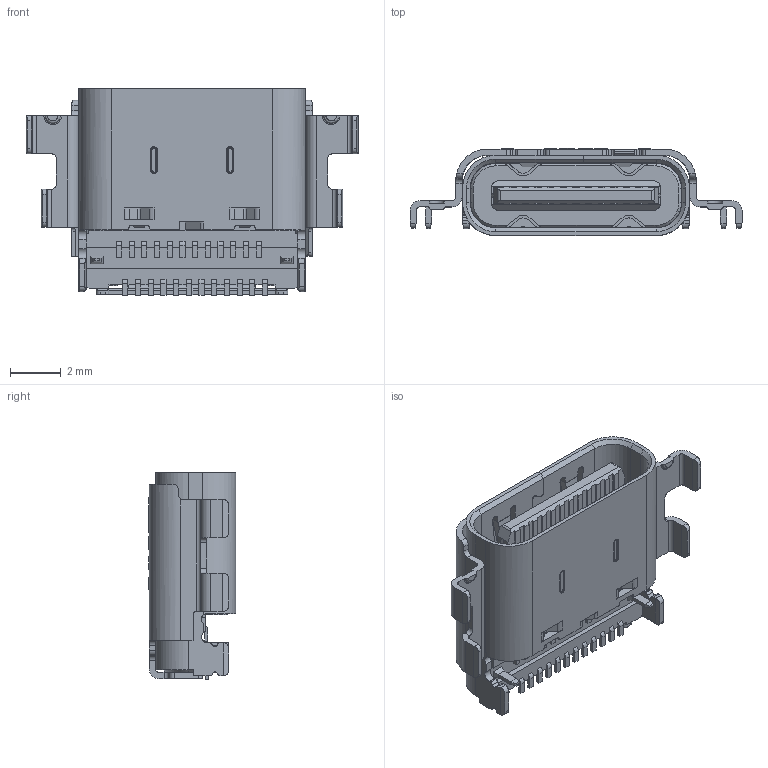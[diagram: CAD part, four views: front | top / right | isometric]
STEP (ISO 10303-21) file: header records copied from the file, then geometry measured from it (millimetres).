
FILE_DESCRIPTION((' '),'2;1');
FILE_NAME( 'U5150-24PN1.08C8.21L.stp', '2026-05-11T17:20:40', (' '), ('--- ---'), ' V2026.1 Dec 31 2025', ' 2026 (c)', ' ');
FILE_SCHEMA(('AP242_MANAGED_MODEL_BASED_3D_ENGINEERING_MIM_LF { 1 0 10303 442 1 1 4 }'));
Length unit declared in the file: millimetre
Products named in the file (4): HSG_1_2; OUT-SHELL_1; U5150-24PN1.08C8.21L(2); U5150-24PN1.08C8.21L
Assembly tree (3 placements, depth 3):
  U5150-24PN1.08C8.21L
    U5150-24PN1.08C8.21L(2)
      HSG_1_2
      OUT-SHELL_1
Bounding box: 13.09 x 3.44 x 8.14 mm (x, y, z)
Volume: 136.7 mm3; surface area: 710.4 mm2
Topology: 2 solids, 2 shells, 1119 faces, 3238 edges, 2130 vertices
Faces by surface type: plane 753, cylinder 303, bspline 48, cone 15
Entity records: 39539 total; most frequent: CARTESIAN_POINT 11108, ORIENTED_EDGE 6476, DIRECTION 5044, EDGE_CURVE 3238, VECTOR 2408, LINE 2408, VERTEX_POINT 2130, AXIS2_PLACEMENT_3D 1318
